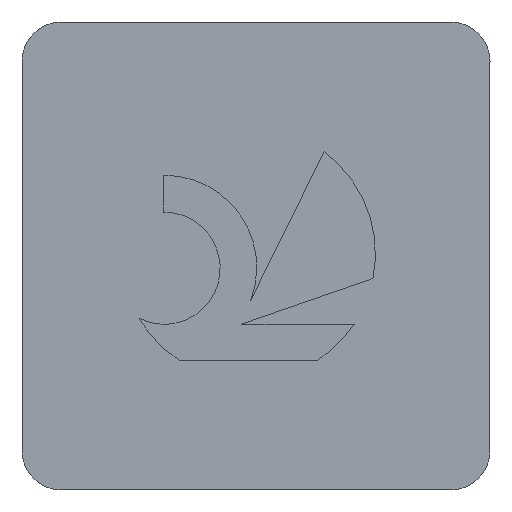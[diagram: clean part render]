
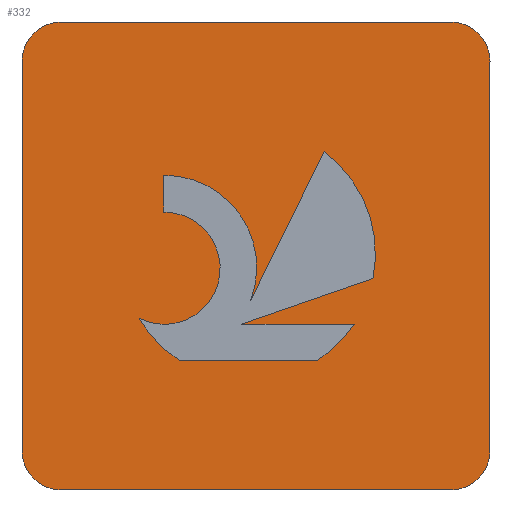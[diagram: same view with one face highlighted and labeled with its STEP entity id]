
A CAD part, top view. The second image highlights one B-rep face of the part: STEP entity #332.
In plain terms, the highlighted planar face has unit normal (0, 0, 1).
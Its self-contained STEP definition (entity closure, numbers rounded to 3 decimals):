
#154=EDGE_CURVE('',#254,#352,#422,.T.);
#162=VERTEX_POINT('',#430);
#166=VERTEX_POINT('',#434);
#170=EDGE_CURVE('',#368,#398,#439,.T.);
#172=EDGE_CURVE('',#166,#368,#441,.T.);
#178=VERTEX_POINT('',#447);
#188=EDGE_CURVE('',#328,#200,#457,.T.);
#196=EDGE_CURVE('',#358,#228,#465,.T.);
#200=VERTEX_POINT('',#469);
#206=EDGE_CURVE('',#162,#328,#475,.T.);
#208=VERTEX_POINT('',#477);
#214=EDGE_CURVE('',#308,#348,#483,.T.);
#220=EDGE_CURVE('',#348,#166,#490,.T.);
#228=VERTEX_POINT('',#499);
#232=EDGE_CURVE('',#200,#242,#504,.T.);
#238=VERTEX_POINT('',#511);
#240=EDGE_CURVE('',#228,#300,#513,.T.);
#242=VERTEX_POINT('',#515);
#254=VERTEX_POINT('',#529);
#260=EDGE_CURVE('',#322,#308,#535,.T.);
#280=EDGE_CURVE('',#208,#238,#560,.T.);
#292=EDGE_CURVE('',#398,#208,#574,.T.);
#294=EDGE_CURVE('',#238,#322,#576,.T.);
#296=EDGE_CURVE('',#352,#162,#578,.T.);
#300=VERTEX_POINT('',#583);
#308=VERTEX_POINT('',#592);
#310=EDGE_CURVE('',#242,#354,#594,.T.);
#320=EDGE_CURVE('',#178,#254,#607,.T.);
#322=VERTEX_POINT('',#609);
#328=VERTEX_POINT('',#616);
#330=EDGE_CURVE('',#354,#358,#618,.T.);
#332=ADVANCED_FACE('',(#620,#621),#622,.T.);
#348=VERTEX_POINT('',#638);
#352=VERTEX_POINT('',#642);
#354=VERTEX_POINT('',#644);
#358=VERTEX_POINT('',#648);
#368=VERTEX_POINT('',#661);
#390=EDGE_CURVE('',#300,#178,#685,.T.);
#398=VERTEX_POINT('',#693);
#422=CIRCLE('',#710,1.141);
#430=CARTESIAN_POINT('',(2.883,5.652,0.0));
#434=CARTESIAN_POINT('',(0.0,0.8,0.0));
#439=LINE('',#732,#733);
#441=CIRCLE('',#736,0.8);
#447=CARTESIAN_POINT('',(3.197,2.638,0.0));
#457=CIRCLE('',#758,1.877);
#465=LINE('',#771,#772);
#469=CARTESIAN_POINT('',(4.649,3.851,0.0));
#475=LINE('',#789,#790);
#477=CARTESIAN_POINT('',(9.52,0.8,0.0));
#483=CIRCLE('',#802,0.8);
#490=LINE('',#810,#811);
#499=CARTESIAN_POINT('',(6.757,3.374,0.0));
#504=LINE('',#827,#828);
#511=CARTESIAN_POINT('',(9.52,8.72,0.0));
#513=CIRCLE('',#840,2.584);
#515=CARTESIAN_POINT('',(6.144,6.881,0.0));
#529=CARTESIAN_POINT('',(2.38,3.492,0.0));
#535=LINE('',#873,#874);
#560=LINE('',#904,#905);
#574=CIRCLE('',#926,0.8);
#576=CIRCLE('',#929,0.8);
#578=CIRCLE('',#932,1.141);
#583=CARTESIAN_POINT('',(6.014,2.638,0.0));
#592=CARTESIAN_POINT('',(0.8,9.52,0.0));
#594=CIRCLE('',#951,2.584);
#607=CIRCLE('',#965,2.584);
#609=CARTESIAN_POINT('',(8.72,9.52,0.0));
#616=CARTESIAN_POINT('',(2.883,6.402,0.0));
#618=LINE('',#977,#978);
#620=FACE_BOUND('',#980,.T.);
#621=FACE_OUTER_BOUND('',#981,.T.);
#622=PLANE('',#982);
#638=CARTESIAN_POINT('',(0.,8.72,0.0));
#642=CARTESIAN_POINT('',(3.401,5.532,0.0));
#644=CARTESIAN_POINT('',(7.14,4.3,0.0));
#648=CARTESIAN_POINT('',(4.474,3.374,0.0));
#661=CARTESIAN_POINT('',(0.8,0.0,0.0));
#685=LINE('',#1069,#1070);
#693=CARTESIAN_POINT('',(8.72,0.0,0.0));
#710=AXIS2_PLACEMENT_3D('',#1088,#1089,#1090);
#732=CARTESIAN_POINT('',(0.8,0.0,0.0));
#733=VECTOR('',#1101,1.0);
#736=AXIS2_PLACEMENT_3D('',#1102,#1103,#1104);
#758=AXIS2_PLACEMENT_3D('',#1109,#1110,#1111);
#771=CARTESIAN_POINT('',(5.759,3.374,0.0));
#772=VECTOR('',#1114,1.0);
#789=CARTESIAN_POINT('',(2.883,5.581,0.0));
#790=VECTOR('',#1118,1.0);
#802=AXIS2_PLACEMENT_3D('',#1123,#1124,#1125);
#810=CARTESIAN_POINT('',(0.0,8.72,0.0));
#811=VECTOR('',#1134,1.0);
#827=CARTESIAN_POINT('',(5.588,5.754,0.0));
#828=VECTOR('',#1153,1.0);
#840=AXIS2_PLACEMENT_3D('',#1163,#1164,#1165);
#873=CARTESIAN_POINT('',(8.72,9.52,0.0));
#874=VECTOR('',#1187,1.0);
#904=CARTESIAN_POINT('',(9.52,0.8,0.0));
#905=VECTOR('',#1229,1.0);
#926=AXIS2_PLACEMENT_3D('',#1248,#1249,#1250);
#929=AXIS2_PLACEMENT_3D('',#1251,#1252,#1253);
#932=AXIS2_PLACEMENT_3D('',#1254,#1255,#1256);
#951=AXIS2_PLACEMENT_3D('',#1281,#1282,#1283);
#965=AXIS2_PLACEMENT_3D('',#1307,#1308,#1309);
#977=CARTESIAN_POINT('',(4.817,3.493,0.0));
#978=VECTOR('',#1318,1.0);
#980=EDGE_LOOP('',(#1320,#1321,#1322,#1323,#1324,#1325,#1326,#1327,#1328,#1329,#1330));
#981=EDGE_LOOP('',(#1331,#1332,#1333,#1334,#1335,#1336,#1337,#1338));
#982=AXIS2_PLACEMENT_3D('',#1339,#1340,#1341);
#1069=CARTESIAN_POINT('',(3.979,2.638,0.0));
#1070=VECTOR('',#1401,1.0);
#1088=CARTESIAN_POINT('',(2.89,4.512,0.0));
#1089=DIRECTION('',(0.0,0.0,1.0));
#1090=DIRECTION('',(-0.447,-0.894,0.0));
#1101=DIRECTION('',(1.0,0.0,0.0));
#1102=CARTESIAN_POINT('',(0.8,0.8,0.0));
#1103=DIRECTION('',(0.0,0.0,1.0));
#1104=DIRECTION('',(-1.0,0.,0.0));
#1109=CARTESIAN_POINT('',(2.898,4.525,0.0));
#1110=DIRECTION('',(0.0,-0.0,-1.0));
#1111=DIRECTION('',(0.933,-0.359,0.0));
#1114=DIRECTION('',(1.0,0.0,0.0));
#1118=DIRECTION('',(0.0,1.0,0.0));
#1123=CARTESIAN_POINT('',(0.8,8.72,0.0));
#1124=DIRECTION('',(0.0,0.0,1.0));
#1125=DIRECTION('',(0.,1.0,0.0));
#1134=DIRECTION('',(0.0,-1.0,0.0));
#1153=DIRECTION('',(0.442,0.897,-0.0));
#1163=CARTESIAN_POINT('',(4.605,4.805,0.0));
#1164=DIRECTION('',(0.0,-0.0,-1.0));
#1165=DIRECTION('',(0.545,-0.838,0.0));
#1187=DIRECTION('',(-1.0,0.0,0.0));
#1229=DIRECTION('',(0.0,1.0,0.0));
#1248=CARTESIAN_POINT('',(8.72,0.8,0.0));
#1249=DIRECTION('',(0.0,0.0,1.0));
#1250=DIRECTION('',(0.,-1.0,0.0));
#1251=CARTESIAN_POINT('',(8.72,8.72,0.0));
#1252=DIRECTION('',(0.0,-0.0,1.0));
#1253=DIRECTION('',(1.0,0.,0.0));
#1254=CARTESIAN_POINT('',(2.89,4.512,0.0));
#1255=DIRECTION('',(0.0,0.0,1.0));
#1256=DIRECTION('',(-0.447,-0.894,0.0));
#1281=CARTESIAN_POINT('',(4.605,4.805,0.0));
#1282=DIRECTION('',(0.0,-0.0,-1.0));
#1283=DIRECTION('',(0.981,-0.196,0.0));
#1307=CARTESIAN_POINT('',(4.605,4.805,0.0));
#1308=DIRECTION('',(-0.0,0.0,-1.0));
#1309=DIRECTION('',(-0.861,-0.508,0.0));
#1318=DIRECTION('',(-0.945,-0.328,0.0));
#1320=ORIENTED_EDGE('',*,*,#206,.T.);
#1321=ORIENTED_EDGE('',*,*,#188,.T.);
#1322=ORIENTED_EDGE('',*,*,#232,.T.);
#1323=ORIENTED_EDGE('',*,*,#310,.T.);
#1324=ORIENTED_EDGE('',*,*,#330,.T.);
#1325=ORIENTED_EDGE('',*,*,#196,.T.);
#1326=ORIENTED_EDGE('',*,*,#240,.T.);
#1327=ORIENTED_EDGE('',*,*,#390,.T.);
#1328=ORIENTED_EDGE('',*,*,#320,.T.);
#1329=ORIENTED_EDGE('',*,*,#154,.T.);
#1330=ORIENTED_EDGE('',*,*,#296,.T.);
#1331=ORIENTED_EDGE('',*,*,#170,.T.);
#1332=ORIENTED_EDGE('',*,*,#292,.T.);
#1333=ORIENTED_EDGE('',*,*,#280,.T.);
#1334=ORIENTED_EDGE('',*,*,#294,.T.);
#1335=ORIENTED_EDGE('',*,*,#260,.T.);
#1336=ORIENTED_EDGE('',*,*,#214,.T.);
#1337=ORIENTED_EDGE('',*,*,#220,.T.);
#1338=ORIENTED_EDGE('',*,*,#172,.T.);
#1339=CARTESIAN_POINT('',(4.76,4.76,0.0));
#1340=DIRECTION('',(0.0,0.0,1.0));
#1341=DIRECTION('',(1.0,0.0,0.0));
#1401=DIRECTION('',(-1.0,0.0,0.0));
